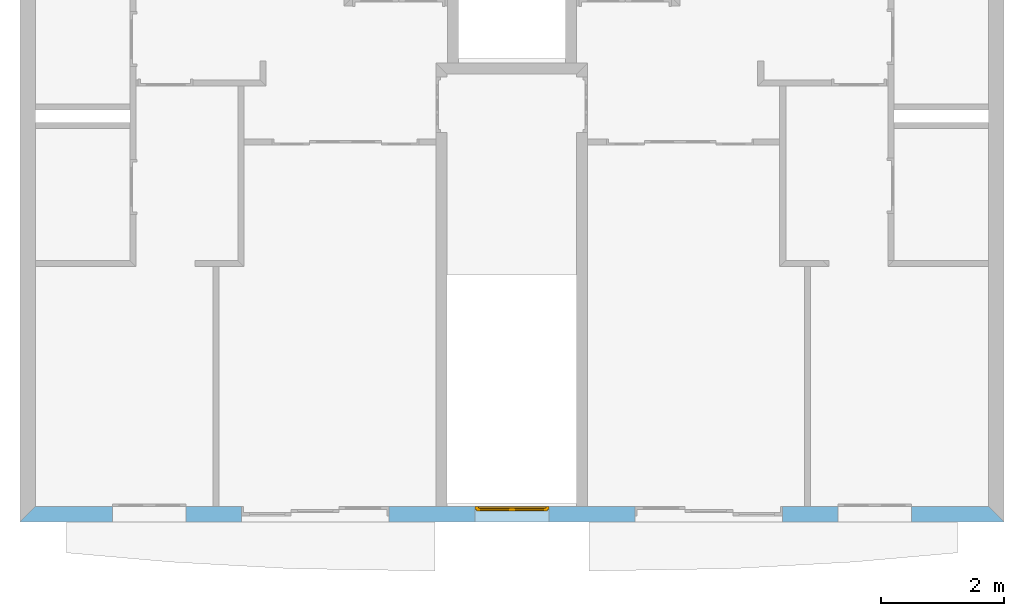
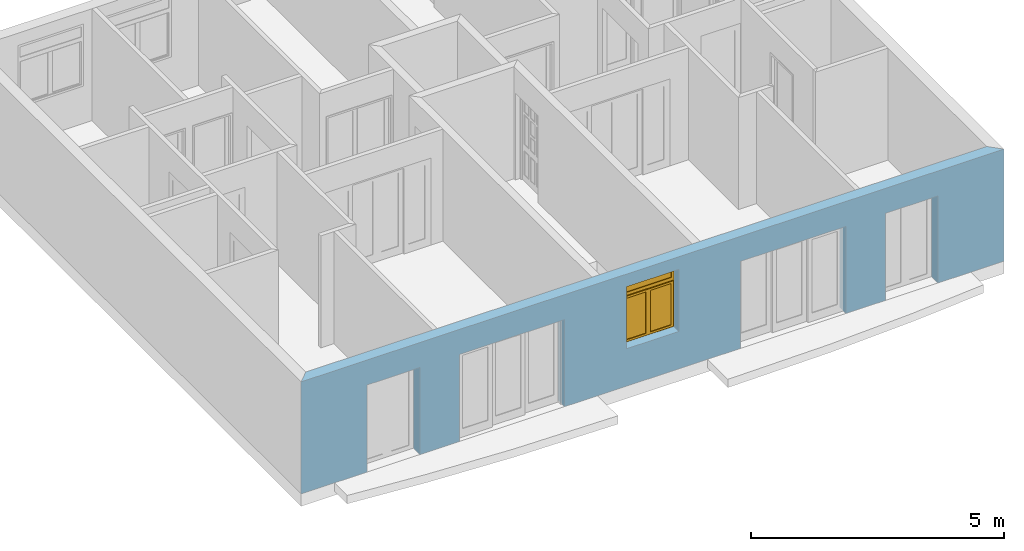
# One storey, part 3 of 13: 1 window, 5 openings, plus 1 element that does not belong to this part.
"""IFC2X3 building model written with IfcOpenShell, lengths in metres."""

from ifc_helpers import new_model, entity, si_unit, converted_unit, direction, frame, frame_2d, origin_with_axes, place, context, project, spatial, polyline, rectangle, outline, extrude, faceted_brep, source, transform, mapped, material, layer, layer_set, layer_usage, type_object, element, fill, save


model = new_model("IFC2X3")

# Units and contexts
context_of_model = context(None, 3, precision=1e-05, world=origin_with_axes(), true_north=direction((6.123234e-17, 1.0)))
plan_context = context("Plan", 3, precision=1e-05, world=origin_with_axes(), true_north=direction((6.123234e-17, 1.0)))
model_context = context("Model", 3, precision=1e-05, world=origin_with_axes(), true_north=direction((6.123234e-17, 1.0)))
ifc_project = project(units=[si_unit("LENGTHUNIT", "METRE"), si_unit("AREAUNIT", "SQUARE_METRE"), si_unit("VOLUMEUNIT", "CUBIC_METRE"), converted_unit("PLANEANGLEUNIT", "DEGREE", entity("IfcPlaneAngleMeasure", 0.017453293), si_unit("PLANEANGLEUNIT", "RADIAN"), dimensions=[0, 0, 0, 0, 0, 0, 0]), si_unit("SOLIDANGLEUNIT", "STERADIAN"), si_unit("MASSUNIT", "GRAM"), si_unit("TIMEUNIT", "SECOND"), si_unit("THERMODYNAMICTEMPERATUREUNIT", "DEGREE_CELSIUS"), si_unit("LUMINOUSINTENSITYUNIT", "LUMEN")], contexts=[context_of_model, plan_context, model_context])

# Site, building, storey
site_placement = place(None, origin_with_axes())
site = spatial("IfcSite", under=ifc_project, at=site_placement, Name="Por defecto Sitio", CompositionType="ELEMENT")
building_placement = place(site_placement, origin_with_axes())
building = spatial("IfcBuilding", under=site, at=building_placement, Name="Por defecto Edificio", CompositionType="ELEMENT")
storey_placement = place(building_placement, frame((0.0, 0.0, 7.2), z_axis=(0.0, 0.0, 1.0), x_axis=(1.0, 0.0, 0.0)))
storey = spatial("IfcBuildingStorey", under=building, at=storey_placement, Name="Segunda", CompositionType="ELEMENT", Elevation=7.2)

# Wall, openings, window
ifc_material = material(Name="Ladrillo común")
ifc_layer = layer(ifc_material, 0.25, ventilated="UNKNOWN")
ifc_layer_set = layer_set([ifc_layer], Name="Ladrillo común")
ifc_layer_usage = layer_usage(ifc_layer_set, "AXIS2", "NEGATIVE", 0.0)
wall_type = type_object("IfcWallType", Name="Ladrillo común", PredefinedType="NOTDEFINED")
wall_placement = place(storey_placement, frame((16.03417, -1.1368684e-13, 0.0), z_axis=(0.0, 0.0, 1.0), x_axis=(-1.0, 7.0902852e-15, 0.0)))
wall = element("IfcWallStandardCase", 1, at=wall_placement, inside=storey, type_object=wall_type, material=ifc_layer_usage, Name="Muro-011", context=context_of_model, shape_type="SweptSolid", body=[
    extrude(outline(polyline([(0.25, -0.25), (15.78417, -0.25), (16.03417, 0.0), (0.0, 0.0), (0.25, -0.25)])), origin_with_axes(), (0.0, 0.0, 1.0), 2.7),
])
opening_1_placement = place(wall_placement, frame((13.926599, -0.25, 0.0), z_axis=(0.0, 0.0, 1.0), x_axis=(1.0, 0.0, 0.0)))
element("IfcOpeningElement", 2, at=opening_1_placement, cuts=wall, ObjectType="Opening", context=model_context, shape_type="SweptSolid", body=[
    extrude(rectangle(XDim=1.2, YDim=2.1, at=frame_2d((-1.7763568e-15, 1.05), x_axis=(-1.0, 0.0))), frame((0.0, 0.0, 0.0), z_axis=(0.0, 1.0, 0.0), x_axis=(-1.0, 0.0, 0.0)), (0.0, 0.0, 1.0), 0.25),
])
opening_2_placement = place(wall_placement, frame((2.1075705, -0.25, 0.0), z_axis=(0.0, 0.0, 1.0), x_axis=(1.0, 0.0, 0.0)))
element("IfcOpeningElement", 3, at=opening_2_placement, cuts=wall, ObjectType="Opening", context=model_context, shape_type="SweptSolid", body=[
    extrude(rectangle(XDim=1.2, YDim=2.1, at=frame_2d((-1.7763568e-15, 1.05), x_axis=(-1.0, 0.0))), frame((0.0, 0.0, 0.0), z_axis=(0.0, 1.0, 0.0), x_axis=(-1.0, 0.0, 0.0)), (0.0, 0.0, 1.0), 0.25),
])
opening_3_placement = place(wall_placement, frame((11.225136, -0.25, 0.0), z_axis=(0.0, 0.0, 1.0), x_axis=(1.0, 0.0, 0.0)))
element("IfcOpeningElement", 4, at=opening_3_placement, cuts=wall, ObjectType="Opening", context=model_context, shape_type="SweptSolid", body=[
    extrude(rectangle(XDim=2.4, YDim=2.1, at=frame_2d((-1.7763568e-15, 1.05), x_axis=(-1.0, 0.0))), frame((0.0, 0.0, 0.0), z_axis=(0.0, 1.0, 0.0), x_axis=(-1.0, 0.0, 0.0)), (0.0, 0.0, 1.0), 0.25),
])
opening_4_placement = place(wall_placement, frame((4.8090341, -0.25, 0.0), z_axis=(0.0, 0.0, 1.0), x_axis=(1.0, 0.0, 0.0)))
element("IfcOpeningElement", 5, at=opening_4_placement, cuts=wall, ObjectType="Opening", context=model_context, shape_type="SweptSolid", body=[
    extrude(rectangle(XDim=2.4, YDim=2.1, at=frame_2d((-1.7763568e-15, 1.05), x_axis=(-1.0, 0.0))), frame((0.0, 0.0, 0.0), z_axis=(0.0, 1.0, 0.0), x_axis=(-1.0, 0.0, 0.0)), (0.0, 0.0, 1.0), 0.25),
])
opening_5_placement = place(wall_placement, frame((8.0170849, -0.25, 0.9), z_axis=(0.0, 0.0, 1.0), x_axis=(1.0, 0.0, 0.0)))
opening_5 = element("IfcOpeningElement", 6, at=opening_5_placement, cuts=wall, ObjectType="Opening", context=model_context, shape_type="SweptSolid", body=[
    extrude(rectangle(XDim=1.2, YDim=1.5, at=frame_2d((-1.7763568e-15, 0.75), x_axis=(-1.0, 0.0))), frame((0.0, 0.0, 0.0), z_axis=(0.0, 1.0, 0.0), x_axis=(-1.0, 0.0, 0.0)), (0.0, 0.0, 1.0), 0.25),
])
window_style = type_object("IfcWindowStyle", Name="V M Doble 12", ConstructionType="NOTDEFINED", OperationType="DOUBLE_PANEL_HORIZONTAL", ParameterTakesPrecedence=False, Sizeable=False)
shared_shape = source(origin_with_axes(), model_context, "Body", "Brep", [
    faceted_brep([(1.175, 0.05, 0.05), (1.175, 0.05, 1.125), (1.15, 0.05, 1.125), (1.15, 0.05, 1.2), (1.15, 0.05, 1.45), (1.2, 0.05, 1.45), (1.2, 0.05, 0.05), (1.175, 0.025, 0.05), (1.175, 0.025, 1.125), (1.15, 0.025, 1.125), (1.15, 0.025, 1.1), (1.15, 5.978551e-14, 1.1), (1.15, 5.978551e-14, 1.2), (1.15, 5.978551e-14, 1.45), (1.2, 6.0146332e-14, 1.45), (1.2, 6.0063066e-14, 0.05), (1.15, 5.9702243e-14, 0.05), (1.15, 0.025, 0.05)], [[[0, 1, 2, 3, 4, 5, 6]], [[1, 0, 7, 8]], [[9, 2, 1, 8]], [[9, 10, 11, 12, 3, 2]], [[3, 12, 13, 4]], [[4, 13, 14, 5]], [[5, 14, 15, 6]], [[7, 0, 6, 15, 16, 17]], [[10, 9, 8, 7, 17]], [[10, 17, 16, 11]], [[12, 11, 16, 15, 14, 13]]]),
    faceted_brep([(0.025, 0.05, 1.125), (0.025, 0.05, 0.05), (1.7763568e-15, 0.05, 0.05), (1.7763568e-15, 0.05, 1.45), (0.05, 0.05, 1.45), (0.05, 0.05, 1.2), (0.05, 0.05, 1.125), (0.025, 0.025, 1.125), (0.025, 0.025, 0.05), (0.05, 0.025, 0.05), (0.05, 5.2180482e-14, 0.05), (1.7763568e-15, 5.1847415e-14, 0.05), (1.7763568e-15, 5.1930682e-14, 1.45), (0.05, 5.2263749e-14, 1.45), (0.05, 5.2263749e-14, 1.2), (0.05, 0.025, 1.125), (0.05, 5.2235993e-14, 1.1), (0.05, 0.025, 1.1)], [[[0, 1, 2, 3, 4, 5, 6]], [[1, 0, 7, 8]], [[8, 9, 10, 11, 2, 1]], [[2, 11, 12, 3]], [[3, 12, 13, 4]], [[4, 13, 14, 5]], [[15, 6, 5, 14, 16, 17]], [[0, 6, 15, 7]], [[9, 8, 7, 15, 17]], [[9, 17, 16, 10]], [[11, 10, 16, 14, 13, 12]]]),
    faceted_brep([(1.15, 0.05, 1.125), (0.6, 0.05, 1.125), (0.05, 0.05, 1.125), (0.05, 0.05, 1.2), (1.15, 0.05, 1.2), (1.15, 0.025, 1.125), (0.6, 0.025, 1.125), (0.05, 0.025, 1.125), (0.05, 0.025, 1.1), (0.05, 5.2235993e-14, 1.1), (0.05, 5.2263749e-14, 1.2), (1.15, 5.978551e-14, 1.2), (1.15, 5.978551e-14, 1.1), (1.15, 0.025, 1.1)], [[[0, 1, 2, 3, 4]], [[1, 0, 5, 6]], [[7, 2, 1, 6]], [[7, 8, 9, 10, 3, 2]], [[3, 10, 11, 4]], [[5, 0, 4, 11, 12, 13]], [[8, 7, 6, 5, 13]], [[8, 13, 12, 9]], [[10, 9, 12, 11]]]),
    faceted_brep([(0.05, 0.025, 0.05), (0.025, 0.025, 0.05), (0.025, 0.05, 0.05), (1.7763568e-15, 0.05, 0.05), (1.7763568e-15, 5.1847415e-14, 0.05), (0.05, 5.2180482e-14, 0.05), (1.15, 0.025, 0.05), (1.175, 0.025, 0.05), (1.175, 0.025, 0.025), (0.6, 0.025, 0.025), (0.025, 0.025, 0.025), (0.025, 0.05, 0.025), (1.175, 0.05, 0.025), (1.175, 0.05, 0.05), (1.2, 0.05, 0.05), (1.2, 0.05, 0.0), (1.7763568e-15, 0.05, 0.0), (0.6, 0.05, 0.025), (0.0, 0.0, 0.0), (1.2, 6.0063066e-14, 0.05), (1.15, 5.9702243e-14, 0.05), (1.2, 6.0063066e-14, 0.0)], [[[0, 1, 2, 3, 4, 5]], [[1, 0, 6, 7, 8, 9, 10]], [[11, 2, 1, 10]], [[12, 13, 14, 15, 16, 3, 2, 11, 17]], [[16, 18, 4, 3]], [[19, 20, 5, 4, 18, 21]], [[6, 0, 5, 20]], [[7, 6, 20, 19, 14, 13]], [[7, 13, 12, 8]], [[12, 17, 9, 8]], [[17, 11, 10, 9]], [[14, 19, 21, 15]], [[15, 21, 18, 16]]]),
    faceted_brep([(0.05, 5.2263749e-14, 1.45), (1.7763568e-15, 5.1930682e-14, 1.45), (1.7763568e-15, 0.05, 1.45), (0.05, 0.05, 1.45), (1.15, 5.978551e-14, 1.45), (1.2, 6.0146332e-14, 1.45), (1.2, 6.0146332e-14, 1.5), (1.7763568e-15, 5.1958438e-14, 1.5), (1.7763568e-15, 0.05, 1.5), (1.2, 0.05, 1.5), (1.2, 0.05, 1.45), (1.15, 0.05, 1.45)], [[[0, 1, 2, 3]], [[0, 4, 5, 6, 7, 1]], [[1, 7, 8, 2]], [[3, 2, 8, 9, 10, 11]], [[4, 0, 3, 11]], [[5, 4, 11, 10]], [[6, 5, 10, 9]], [[7, 6, 9, 8]]]),
    faceted_brep([(0.075, 0.025, 0.075), (0.075, 0.075, 0.075), (0.075, 0.075, 1.075), (0.075, 0.025, 1.075), (0.025, 0.025, 0.075), (0.025, 0.075, 0.075), (0.025, 0.075, 1.075), (0.025, 0.025, 1.075)], [[[0, 1, 2, 3]], [[4, 5, 1, 0]], [[1, 5, 6, 2]], [[3, 2, 6, 7]], [[0, 3, 7, 4]], [[7, 6, 5, 4]]]),
    faceted_brep([(0.6, 0.025, 0.075), (0.6, 0.075, 0.075), (0.6, 0.075, 1.075), (0.6, 0.025, 1.075), (0.55, 0.025, 0.075), (0.55, 0.075, 0.075), (0.55, 0.075, 1.075), (0.55, 0.025, 1.075)], [[[0, 1, 2, 3]], [[4, 5, 1, 0]], [[1, 5, 6, 2]], [[3, 2, 6, 7]], [[0, 3, 7, 4]], [[7, 6, 5, 4]]]),
    faceted_brep([(0.6, 0.025, 0.025), (0.6, 0.075, 0.025), (0.6, 0.075, 0.075), (0.6, 0.025, 0.075), (0.025, 0.025, 0.025), (0.025, 0.075, 0.025), (0.025, 0.075, 0.075), (0.075, 0.075, 0.075), (0.55, 0.075, 0.075), (0.55, 0.025, 0.075), (0.075, 0.025, 0.075), (0.025, 0.025, 0.075)], [[[0, 1, 2, 3]], [[4, 5, 1, 0]], [[1, 5, 6, 7, 8, 2]], [[3, 2, 8, 9]], [[0, 3, 9, 10, 11, 4]], [[11, 6, 5, 4]], [[10, 7, 6, 11]], [[9, 8, 7, 10]]]),
    faceted_brep([(0.025, 0.025, 1.125), (0.025, 0.075, 1.125), (0.025, 0.075, 1.075), (0.025, 0.025, 1.075), (0.6, 0.025, 1.125), (0.6, 0.075, 1.125), (0.6, 0.075, 1.075), (0.55, 0.075, 1.075), (0.075, 0.075, 1.075), (0.075, 0.025, 1.075), (0.55, 0.025, 1.075), (0.6, 0.025, 1.075)], [[[0, 1, 2, 3]], [[4, 5, 1, 0]], [[1, 5, 6, 7, 8, 2]], [[3, 2, 8, 9]], [[0, 3, 9, 10, 11, 4]], [[11, 6, 5, 4]], [[10, 7, 6, 11]], [[9, 8, 7, 10]]]),
    faceted_brep([(0.075, 0.04, 0.075), (0.075, 0.06, 0.075), (0.55, 0.06, 0.075), (0.55, 0.04, 0.075), (0.075, 0.04, 1.075), (0.075, 0.06, 1.075), (0.55, 0.06, 1.075), (0.55, 0.04, 1.075)], [[[0, 1, 2, 3]], [[4, 5, 1, 0]], [[1, 5, 6, 2]], [[3, 2, 6, 7]], [[0, 3, 7, 4]], [[7, 6, 5, 4]]]),
    faceted_brep([(0.65, 0.025, 0.075), (0.65, 0.075, 0.075), (0.65, 0.075, 1.075), (0.65, 0.025, 1.075), (0.6, 0.025, 0.075), (0.6, 0.075, 0.075), (0.6, 0.075, 1.075), (0.6, 0.025, 1.075)], [[[0, 1, 2, 3]], [[4, 5, 1, 0]], [[1, 5, 6, 2]], [[3, 2, 6, 7]], [[0, 3, 7, 4]], [[7, 6, 5, 4]]]),
    faceted_brep([(1.175, 0.025, 0.075), (1.175, 0.075, 0.075), (1.175, 0.075, 1.075), (1.175, 0.025, 1.075), (1.125, 0.025, 0.075), (1.125, 0.075, 0.075), (1.125, 0.075, 1.075), (1.125, 0.025, 1.075)], [[[0, 1, 2, 3]], [[4, 5, 1, 0]], [[1, 5, 6, 2]], [[3, 2, 6, 7]], [[0, 3, 7, 4]], [[7, 6, 5, 4]]]),
    faceted_brep([(1.175, 0.025, 0.025), (1.175, 0.075, 0.025), (1.175, 0.075, 0.075), (1.175, 0.025, 0.075), (0.6, 0.025, 0.025), (0.6, 0.075, 0.025), (0.6, 0.075, 0.075), (0.65, 0.075, 0.075), (1.125, 0.075, 0.075), (1.125, 0.025, 0.075), (0.65, 0.025, 0.075), (0.6, 0.025, 0.075)], [[[0, 1, 2, 3]], [[4, 5, 1, 0]], [[1, 5, 6, 7, 8, 2]], [[3, 2, 8, 9]], [[0, 3, 9, 10, 11, 4]], [[11, 6, 5, 4]], [[10, 7, 6, 11]], [[9, 8, 7, 10]]]),
    faceted_brep([(0.6, 0.025, 1.125), (0.6, 0.075, 1.125), (0.6, 0.075, 1.075), (0.6, 0.025, 1.075), (1.175, 0.025, 1.125), (1.175, 0.075, 1.125), (1.175, 0.075, 1.075), (1.125, 0.075, 1.075), (0.65, 0.075, 1.075), (0.65, 0.025, 1.075), (1.125, 0.025, 1.075), (1.175, 0.025, 1.075)], [[[0, 1, 2, 3]], [[4, 5, 1, 0]], [[1, 5, 6, 7, 8, 2]], [[3, 2, 8, 9]], [[0, 3, 9, 10, 11, 4]], [[11, 6, 5, 4]], [[10, 7, 6, 11]], [[9, 8, 7, 10]]]),
    faceted_brep([(0.65, 0.04, 0.075), (0.65, 0.06, 0.075), (1.125, 0.06, 0.075), (1.125, 0.04, 0.075), (0.65, 0.04, 1.075), (0.65, 0.06, 1.075), (1.125, 0.06, 1.075), (1.125, 0.04, 1.075)], [[[0, 1, 2, 3]], [[4, 5, 1, 0]], [[1, 5, 6, 2]], [[3, 2, 6, 7]], [[0, 3, 7, 4]], [[7, 6, 5, 4]]]),
    faceted_brep([(0.05, 0.015, 1.2), (0.05, 0.035, 1.2), (1.15, 0.035, 1.2), (1.15, 0.015, 1.2), (0.05, 0.015, 1.45), (0.05, 0.035, 1.45), (1.15, 0.035, 1.45), (1.15, 0.015, 1.45)], [[[0, 1, 2, 3]], [[4, 5, 1, 0]], [[1, 5, 6, 2]], [[3, 2, 6, 7]], [[0, 3, 7, 4]], [[7, 6, 5, 4]]]),
])
window_placement = place(opening_5_placement, frame((-0.6, 0.0, 0.0), z_axis=(0.0, 0.0, 1.0), x_axis=(1.0, 0.0, 0.0)))
window = element("IfcWindow", 7, at=window_placement, inside=storey, type_object=window_style, Name="V09", OverallHeight=1.5, OverallWidth=1.2, context=model_context, shape_type="MappedRepresentation", body=[
    mapped(shared_shape, transform((0.0, 0.0, 0.0), scale=1.0)),
])
fill(opening_5, window)

save(model, "model.ifc")
